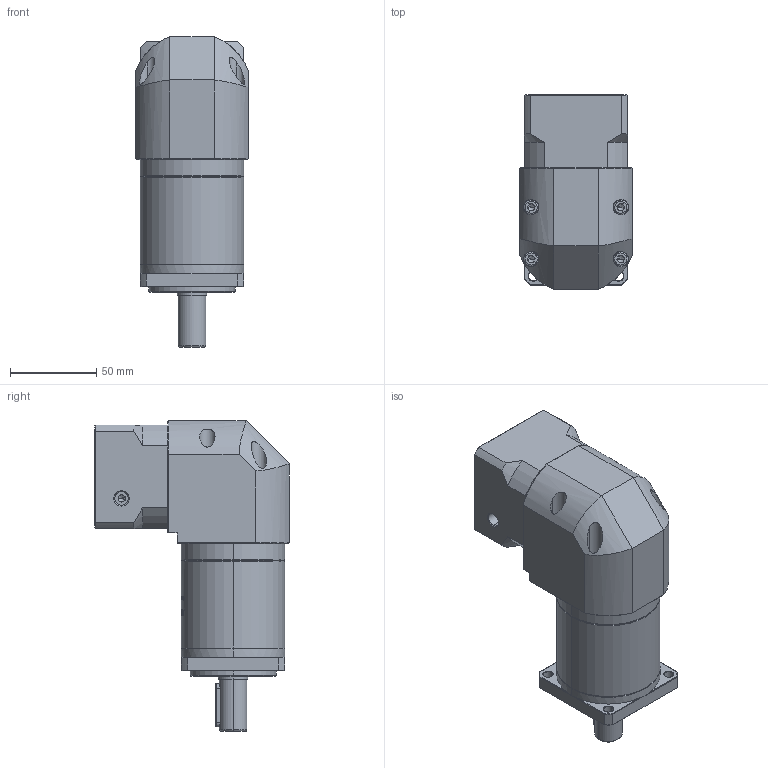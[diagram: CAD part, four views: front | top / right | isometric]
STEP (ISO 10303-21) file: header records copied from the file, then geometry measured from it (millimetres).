
FILE_DESCRIPTION (( 'STEP AP214' ), '1' );
FILE_NAME ('ZFR060-D16-L2-P2-14-50-70-M4.step', '2023-08-17T03:34:50', ( '' ), ( '' ), 'SwSTEP 2.0', 'SolidWorks 2016', '' );
FILE_SCHEMA (( 'AUTOMOTIVE_DESIGN' ));
Length unit declared in the file: millimetre
Products named in the file (1): ZFR060-D16-L2-P2-14-50-70-M4
Bounding box: 65 x 112.7 x 180 mm (x, y, z)
Volume: 587749.6 mm3; surface area: 81623.8 mm2
Topology: 5 solids, 6 shells, 1914 faces, 5101 edges, 3284 vertices
Faces by surface type: plane 847, cylinder 399, bspline 366, cone 290, torus 12
Entity records: 104350 total; most frequent: CARTESIAN_POINT 39888, ORIENTED_EDGE 10158, DIRECTION 7544, EDGE_CURVE 5079, VERTEX_POINT 3284, VECTOR 2594, LINE 2594, AXIS2_PLACEMENT_3D 2475
